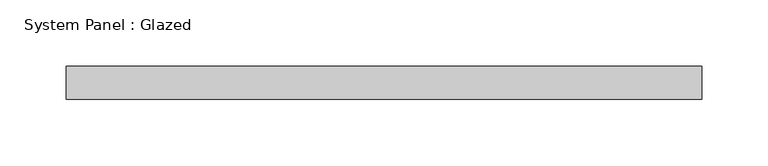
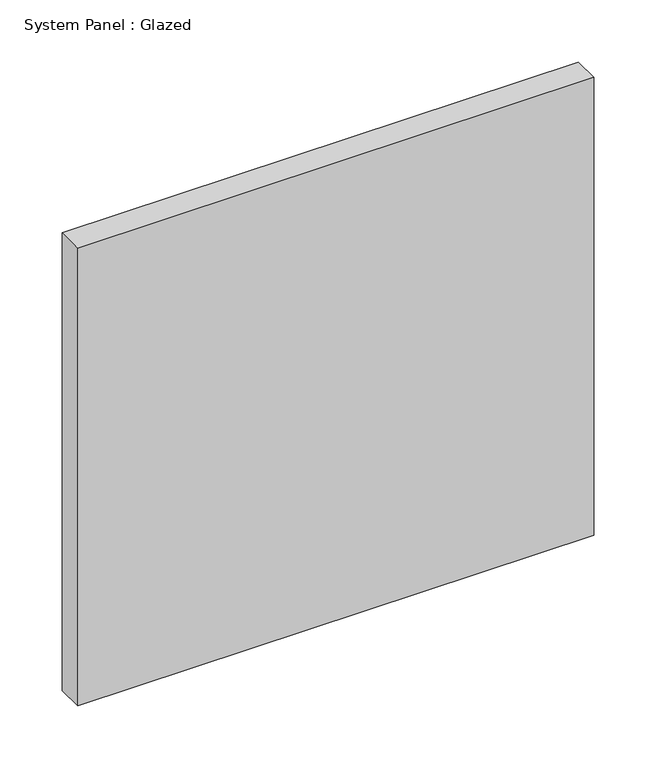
"""IFC4 building model written with IfcOpenShell, lengths in millimetres: plate geometry, System Panel : Glazed."""

from ifc_helpers import new_model, si_unit, origin, origin_with_axes, place, context, project, spatial, polyline, outline, extrude, source, transform, mapped, element, save


def system_panel_glazed_7664c6fa(model_context):
    return source(origin(), model_context, "Body", "SweptSolid", [
        extrude(outline(polyline([(240.0, -12.5), (-240.0, -12.5), (-240.0, 12.5), (240.0, 12.5), (240.0, -12.5)])), origin_with_axes(), (0.0, 0.0, 1.0), 450.0),
    ])


if __name__ == "__main__":
    model = new_model("IFC4")
    model_context = context("Model", 3, world=origin())
    ifc_project = project(units=[si_unit("LENGTHUNIT", "METRE", prefix="MILLI")], contexts=[model_context])
    site = spatial("IfcSite", under=ifc_project)
    building = spatial("IfcBuilding", under=site)
    placement = place(None, origin())
    system_panel_glazed_shape = system_panel_glazed_7664c6fa(model_context)
    element("IfcPlate", 1, ObjectType="System Panel : Glazed", at=placement, inside=building, context=model_context, shape_type="MappedRepresentation", body=[
        mapped(system_panel_glazed_shape, transform((0.0, 0.0, 0.0), x_axis=(1.0, 0.0, 0.0), y_axis=(0.0, 1.0, 0.0), z_axis=(0.0, 0.0, 1.0))),
    ])
    save(model, "model.ifc")
